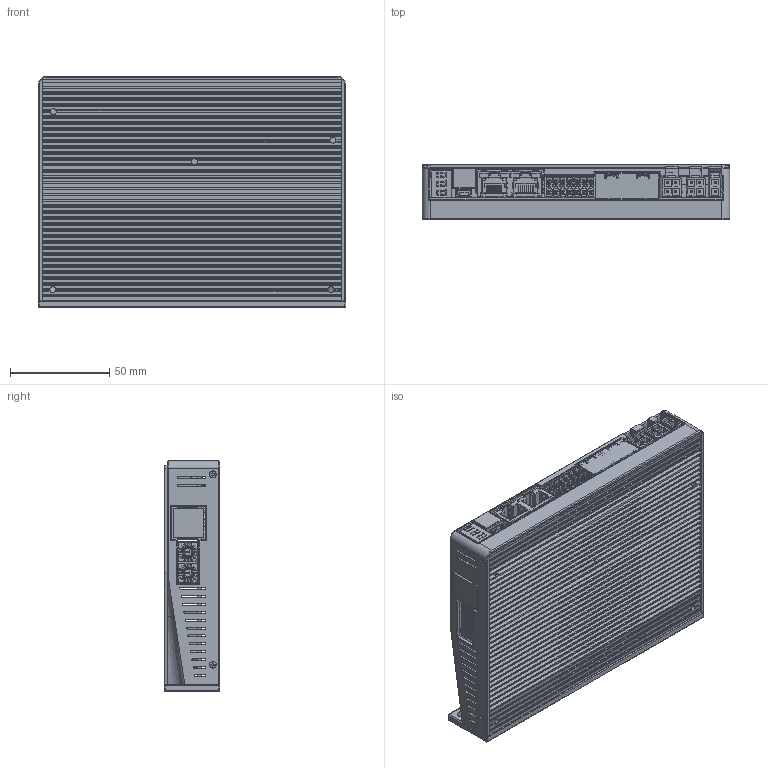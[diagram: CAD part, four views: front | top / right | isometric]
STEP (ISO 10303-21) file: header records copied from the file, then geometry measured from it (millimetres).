
FILE_DESCRIPTION((''),'2;1');
FILE_NAME('ASM0001_ASM_ASM','2023-03-13T',('Administrator'),(''),'PRO/ENGINEER BY PARAMETRIC TECHNOLOGY CORPORATION, 2010280','PRO/ENGINEER BY PARAMETRIC TECHNOLOGY CORPORATION, 2010280','');
FILE_SCHEMA(('CONFIG_CONTROL_DESIGN','SHAPE_APPEARANCE_LAYERS_GROUPS'));
Products named in the file (15): PRT0001; PRT0002; PRT0003; PRT0004; PRT0005; PRT0006; PRT0007; PRT0008; VX0411310000G_8P_3_1; PRT0009; ASM0002_ASM_ASM; PRT0010; PRT0011; PRT0012; ASM0001_ASM_ASM
Assembly tree (20 placements, depth 3):
  ASM0001_ASM_ASM
    ASM0002_ASM_ASM
      PRT0001
      PRT0002
      PRT0003
      PRT0004
      PRT0005
      PRT0006  x2
      PRT0007  x2
      PRT0008
      VX0411310000G_8P_3_1
      PRT0009  x2
    PRT0010
    PRT0011
    PRT0012  x4
Bounding box: 155 x 28 x 116.5 mm (x, y, z)
Volume: 169094.7 mm3; surface area: 181470.5 mm2
Topology: 19 solids, 19 shells, 6301 faces, 17345 edges, 11367 vertices
Faces by surface type: plane 4898, cylinder 1003, extrusion 216, cone 162, sphere 12, bspline 8, torus 2
Entity records: 175232 total; most frequent: CARTESIAN_POINT 41785, ORIENTED_EDGE 28832, DIRECTION 25308, EDGE_CURVE 14416, VECTOR 11738, LINE 11622, VERTEX_POINT 9492, AXIS2_PLACEMENT_3D 6785
